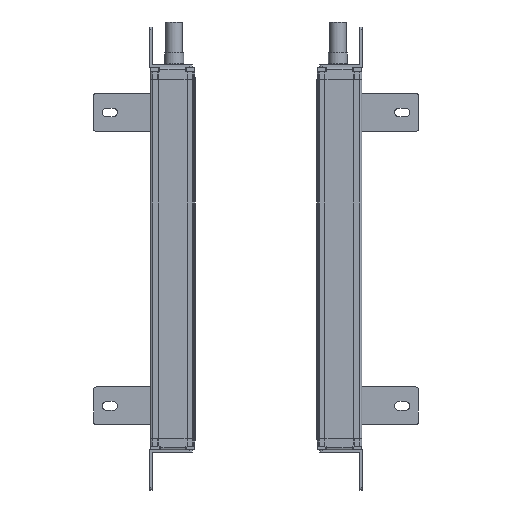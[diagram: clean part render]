
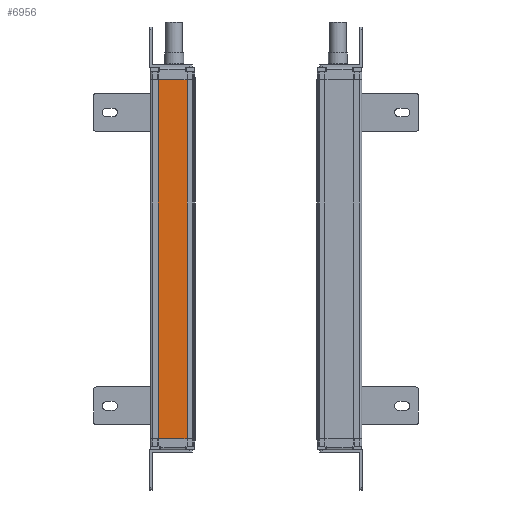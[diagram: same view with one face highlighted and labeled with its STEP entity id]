
A CAD part, left-side view. The second image highlights one B-rep face of the part: STEP entity #6956.
In plain terms, the highlighted planar face has unit normal (-1, 0, 0).
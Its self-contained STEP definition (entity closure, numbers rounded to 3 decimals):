
#953=FACE_OUTER_BOUND('',#9034,.T.);
#2188=LINE('',#33710,#4326);
#2290=LINE('',#34050,#4428);
#2291=LINE('',#34052,#4429);
#2292=LINE('',#34054,#4430);
#4326=VECTOR('',#26897,1.);
#4428=VECTOR('',#27185,1.);
#4429=VECTOR('',#27188,1.);
#4430=VECTOR('',#27189,1.);
#6178=PLANE('',#23723);
#6956=ADVANCED_FACE('',(#953),#6178,.T.);
#9034=EDGE_LOOP('',(#11681,#11682,#11683,#11684));
#11681=ORIENTED_EDGE('',*,*,#19828,.F.);
#11682=ORIENTED_EDGE('',*,*,#19829,.T.);
#11683=ORIENTED_EDGE('',*,*,#19830,.T.);
#11684=ORIENTED_EDGE('',*,*,#19658,.F.);
#17203=VERTEX_POINT('',#33709);
#17204=VERTEX_POINT('',#33711);
#17348=VERTEX_POINT('',#34049);
#17349=VERTEX_POINT('',#34053);
#19658=EDGE_CURVE('',#17203,#17204,#2188,.T.);
#19828=EDGE_CURVE('',#17348,#17203,#2290,.T.);
#19829=EDGE_CURVE('',#17348,#17349,#2291,.T.);
#19830=EDGE_CURVE('',#17349,#17204,#2292,.T.);
#23723=AXIS2_PLACEMENT_3D('',#34055,#27190,#27191);
#26897=DIRECTION('',(0.,-1.,0.));
#27185=DIRECTION('',(0.,0.,1.));
#27188=DIRECTION('',(0.,-1.,0.));
#27189=DIRECTION('',(0.,0.,1.));
#27190=DIRECTION('',(-1.,0.,0.));
#27191=DIRECTION('',(0.,-1.,0.));
#33709=CARTESIAN_POINT('',(233.846,104.141,31.645));
#33710=CARTESIAN_POINT('',(233.846,81.141,31.645));
#33711=CARTESIAN_POINT('',(233.846,81.141,31.645));
#34049=CARTESIAN_POINT('',(233.846,104.141,-253.355));
#34050=CARTESIAN_POINT('',(233.846,104.141,-155.355));
#34052=CARTESIAN_POINT('',(233.846,81.141,-253.355));
#34053=CARTESIAN_POINT('',(233.846,81.141,-253.355));
#34054=CARTESIAN_POINT('',(233.846,81.141,-155.355));
#34055=CARTESIAN_POINT('',(233.846,81.141,-50.355));
